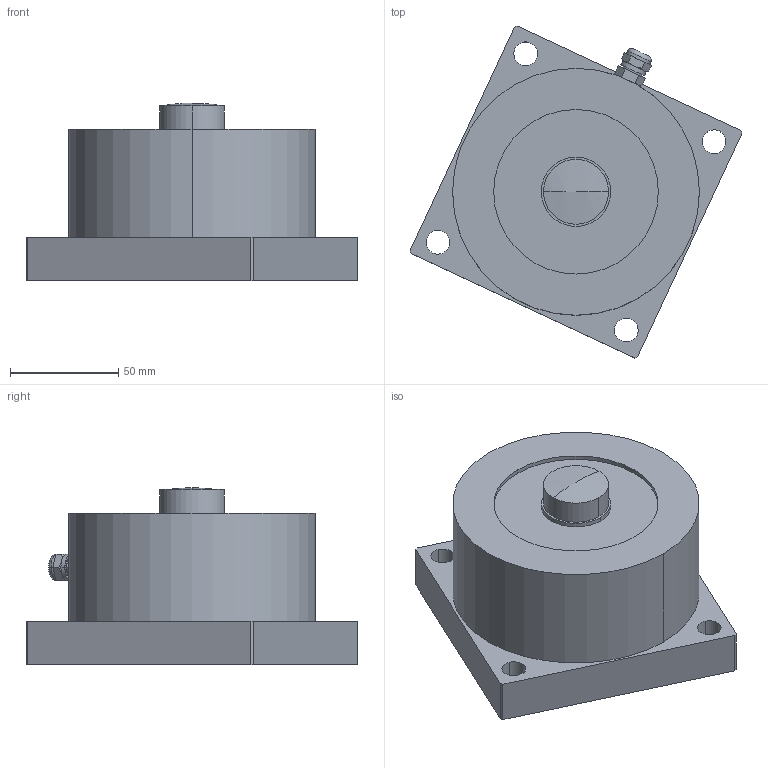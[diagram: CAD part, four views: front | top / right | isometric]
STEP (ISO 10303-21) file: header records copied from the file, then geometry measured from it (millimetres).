
FILE_DESCRIPTION (( 'STEP AP203' ), '1' );
FILE_NAME ('LCS-C2A 100~250kN.STEP', '2024-11-07T09:02:46', ( 'SMOWO' ), ( '' ), 'SwSTEP 2.0', 'SolidWorks 2020', '' );
FILE_SCHEMA (( 'CONFIG_CONTROL_DESIGN' ));
Length unit declared in the file: millimetre
Products named in the file (1): LCS-C2A 100~250kN
Bounding box: 153.31 x 153.31 x 82 mm (x, y, z)
Volume: 739473.8 mm3; surface area: 83211.7 mm2
Topology: 1 solids, 7 shells, 213 faces, 491 edges, 297 vertices
Faces by surface type: plane 101, cylinder 73, cone 27, torus 10, sphere 2
Entity records: 6578 total; most frequent: CARTESIAN_POINT 1618, DIRECTION 1085, ORIENTED_EDGE 944, EDGE_CURVE 472, AXIS2_PLACEMENT_3D 421, VERTEX_POINT 296, EDGE_LOOP 254, VECTOR 243
